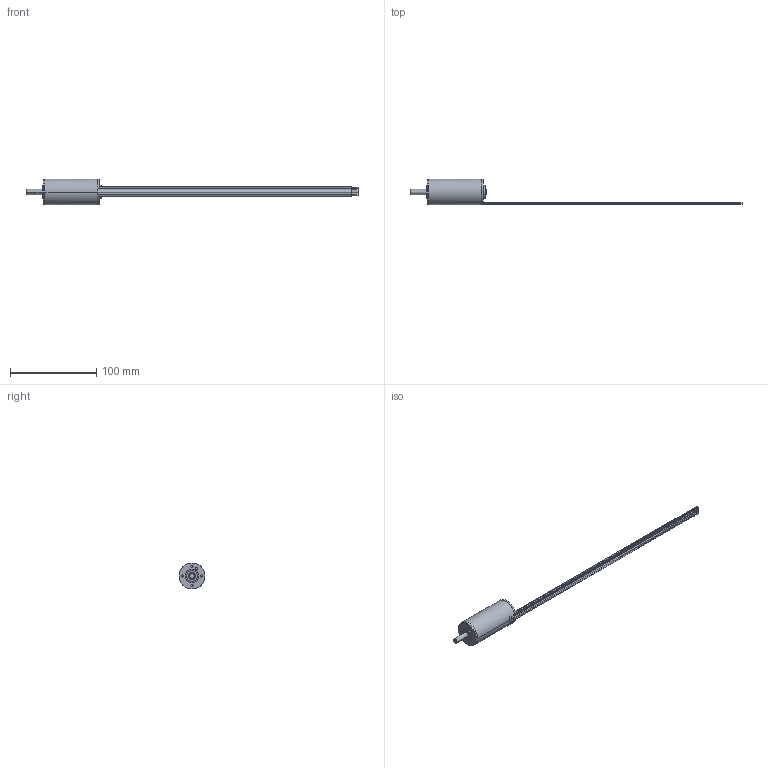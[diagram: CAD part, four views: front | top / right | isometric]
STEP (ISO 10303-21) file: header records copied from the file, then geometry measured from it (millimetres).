
FILE_DESCRIPTION((''),'2;1');
FILE_NAME('1883648_ASM','2013-12-19T',('MMAGPETK'),(''),'PRO/ENGINEER BY PARAMETRIC TECHNOLOGY CORPORATION, 2013130','PRO/ENGINEER BY PARAMETRIC TECHNOLOGY CORPORATION, 2013130','');
FILE_SCHEMA(('CONFIG_CONTROL_DESIGN'));
Length unit declared in the file: millimetre
Products named in the file (4): 1883647; 1615577; 1615579; 1883648_ASM
Assembly tree (3 placements, depth 2):
  1883648_ASM
    1883647
    1615577
    1615579
Bounding box: 385 x 30 x 30 mm (x, y, z)
Volume: 50610.4 mm3; surface area: 18719.5 mm2
Topology: 9 solids, 9 shells, 120 faces, 232 edges, 146 vertices
Faces by surface type: cylinder 65, plane 41, cone 12, torus 2
Entity records: 3142 total; most frequent: DIRECTION 616, CARTESIAN_POINT 497, ORIENTED_EDGE 448, AXIS2_PLACEMENT_3D 265, EDGE_CURVE 224, VERTEX_POINT 146, EDGE_LOOP 144, CIRCLE 138
